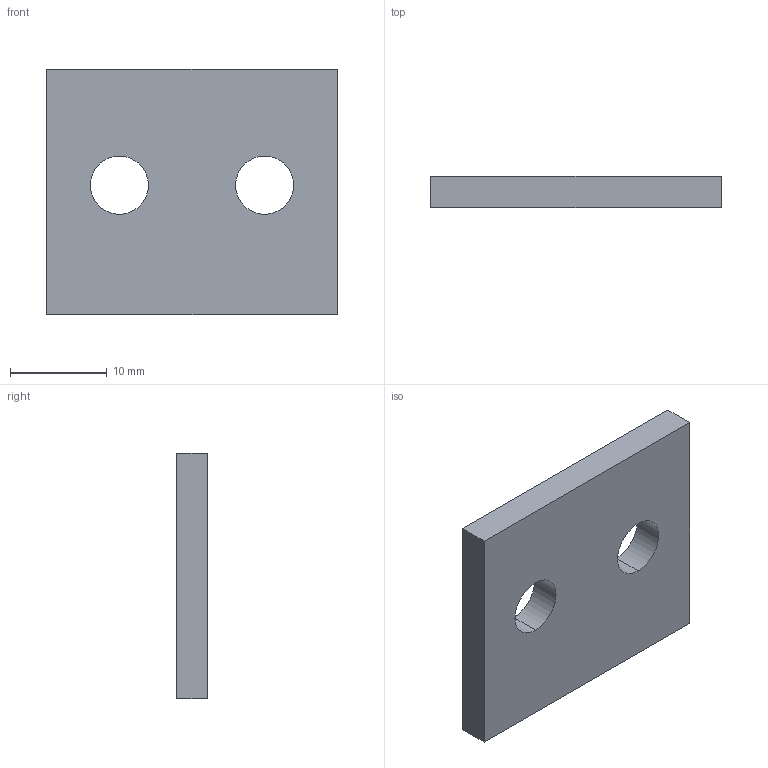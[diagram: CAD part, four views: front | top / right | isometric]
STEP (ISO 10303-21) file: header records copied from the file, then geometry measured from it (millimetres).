
FILE_DESCRIPTION (( 'STEP AP203' ), '1' );
FILE_NAME ('500-02231-Shim-for-RSP1-LessThan-50kg.STEP', '2020-09-22T16:33:00', ( '' ), ( '' ), 'SwSTEP 2.0', 'SolidWorks 2016', '' );
FILE_SCHEMA (( 'CONFIG_CONTROL_DESIGN' ));
Length unit declared in the file: millimetre
Products named in the file (1): 500-02231-Shim-for-RSP1-LessThan-50kg
Bounding box: 30 x 3.17 x 25.4 mm (x, y, z)
Volume: 2239.8 mm3; surface area: 1882.4 mm2
Topology: 1 solids, 1 shells, 10 faces, 24 edges, 16 vertices
Faces by surface type: plane 6, cylinder 4
Entity records: 381 total; most frequent: DIRECTION 54, CARTESIAN_POINT 51, ORIENTED_EDGE 48, EDGE_CURVE 24, AXIS2_PLACEMENT_3D 19, VECTOR 16, LINE 16, VERTEX_POINT 16
